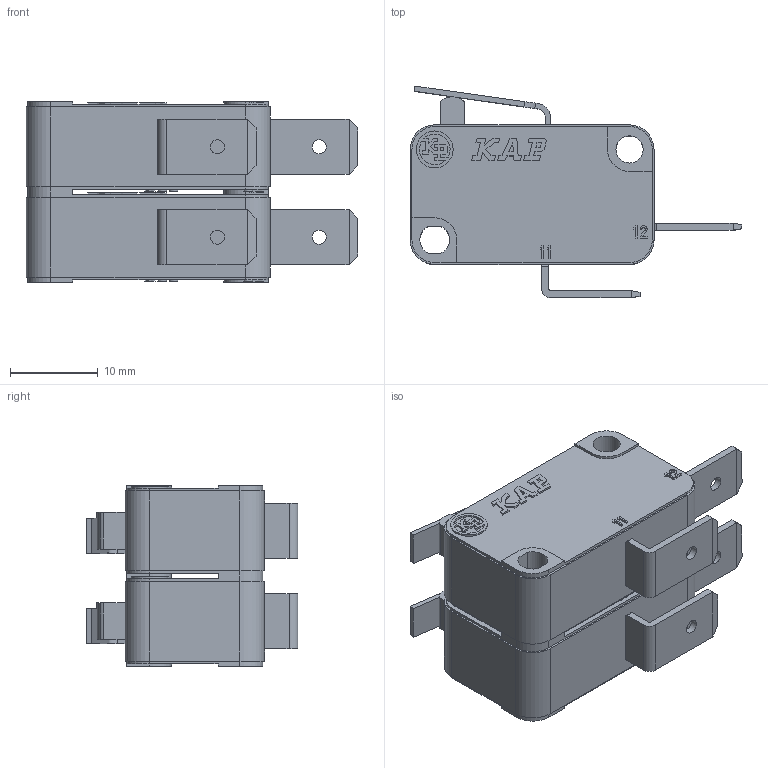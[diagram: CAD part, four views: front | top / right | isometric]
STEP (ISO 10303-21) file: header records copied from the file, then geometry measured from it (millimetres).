
FILE_DESCRIPTION(('Microrutor Miniatura Duplo Mecanismo Acao Lenta c/ Ruptura Positiva Contatos NF Alavanca Plana Terminal Faston 6.3'),'2;1');
FILE_NAME('E:\WorkFolder\Bibl\3DWeb\kp_mv_mvkdgea$_step.stp','2019-11-26T08:31:22',('DIE'),('KAP Componentes Eletricos Ltda.'),'Autodesk Inventor 2011','Autodesk Inventor 2011','Direitos reservados. Proibido reproducao, cedencia ou revelacao de conteudo a terceiros, salvo com autorizacao.');
FILE_SCHEMA(('AUTOMOTIVE_DESIGN { 1 0 10303 214 1 1 1 1 }'));
Length unit declared in the file: millimetre
Products named in the file (1): Part2
Bounding box: 37.8 x 24.13 x 20.6 mm (x, y, z)
Volume: 8533.3 mm3; surface area: 4792.3 mm2
Topology: 1 solids, 1 shells, 549 faces, 1490 edges, 991 vertices
Faces by surface type: plane 454, cylinder 95
Full cylindrical faces by diameter (mm): 1.6 x4, 3.1 x1, 4.2 x2
Entity records: 17109 total; most frequent: CARTESIAN_POINT 3018, ORIENTED_EDGE 2964, DIRECTION 2774, EDGE_CURVE 1482, VECTOR 1290, LINE 1290, VERTEX_POINT 986, AXIS2_PLACEMENT_3D 742
